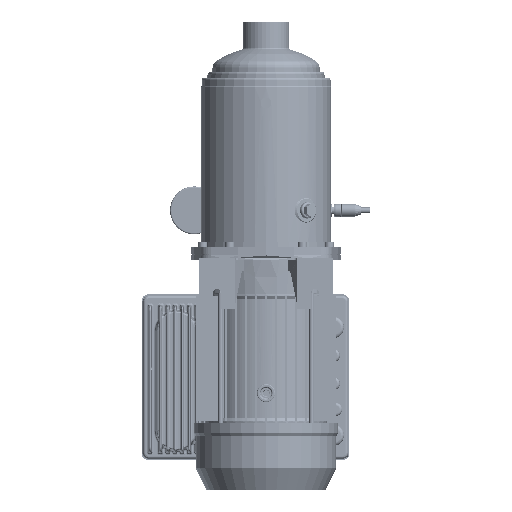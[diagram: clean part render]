
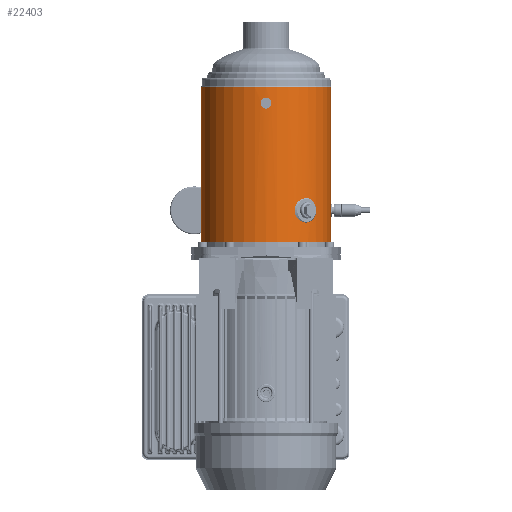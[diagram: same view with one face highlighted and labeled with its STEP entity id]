
A CAD part, front view. The second image highlights one B-rep face of the part: STEP entity #22403.
In plain terms, the highlighted cylindrical face has radius 72 mm (diameter 144 mm), a partial arc.
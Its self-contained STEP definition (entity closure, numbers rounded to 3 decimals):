
#19460=CARTESIAN_POINT('',(0.,8.4,0.));
#19461=DIRECTION('',(0.,1.,0.));
#19462=DIRECTION('',(0.,0.,-1.));
#19463=AXIS2_PLACEMENT_3D('',#19460,#19461,#19462);
#19538=DIRECTION('',(0.,1.,0.));
#19539=VECTOR('',#19538,170.614);
#19540=CARTESIAN_POINT('',(0.,8.4,-72.));
#19541=LINE('',#19540,#19539);
#19545=DIRECTION('',(0.,-1.,0.));
#19546=VECTOR('',#19545,170.614);
#19547=CARTESIAN_POINT('',(0.,179.014,72.));
#19548=LINE('',#19547,#19546);
#19552=CARTESIAN_POINT('',(-64.772,43.,
31.441));
#19553=CARTESIAN_POINT('',(-64.772,41.708,
31.441));
#19554=CARTESIAN_POINT('',(-64.595,39.185,
31.812));
#19555=CARTESIAN_POINT('',(-63.701,35.395,
33.594));
#19556=CARTESIAN_POINT('',(-62.073,32.171,
36.555));
#19557=CARTESIAN_POINT('',(-59.704,29.999,
40.338));
#19558=CARTESIAN_POINT('',(-56.781,29.25,
44.367));
#19559=CARTESIAN_POINT('',(-53.579,30.001,
48.177));
#19560=CARTESIAN_POINT('',(-50.481,32.175,
51.39));
#19561=CARTESIAN_POINT('',(-48.004,35.4,
53.684));
#19562=CARTESIAN_POINT('',(-46.492,39.193,
54.982));
#19563=CARTESIAN_POINT('',(-46.177,41.711,
55.242));
#19564=CARTESIAN_POINT('',(-46.177,43.,
55.242));
#19569=CARTESIAN_POINT('',(-46.177,43.,
55.242));
#19570=CARTESIAN_POINT('',(-46.177,44.292,
55.242));
#19571=CARTESIAN_POINT('',(-46.493,46.815,
54.98));
#19572=CARTESIAN_POINT('',(-48.007,50.605,
53.681));
#19573=CARTESIAN_POINT('',(-50.485,53.829,
51.386));
#19574=CARTESIAN_POINT('',(-53.583,56.001,
48.172));
#19575=CARTESIAN_POINT('',(-56.786,56.75,
44.361));
#19576=CARTESIAN_POINT('',(-59.708,55.999,
40.332));
#19577=CARTESIAN_POINT('',(-62.076,53.825,36.549));
#19578=CARTESIAN_POINT('',(-63.702,50.6,
33.591));
#19579=CARTESIAN_POINT('',(-64.596,46.807,
31.809));
#19580=CARTESIAN_POINT('',(-64.772,44.289,
31.441));
#19581=CARTESIAN_POINT('',(-64.772,43.,
31.441));
#19586=CARTESIAN_POINT('',(-72.,167.4,0.));
#19587=CARTESIAN_POINT('',(-72.,167.4,-0.812));
#19588=CARTESIAN_POINT('',(-71.974,167.098,
-2.312));
#19589=CARTESIAN_POINT('',(-71.875,165.761,
-4.353));
#19590=CARTESIAN_POINT('',(-71.777,163.758,
-5.685));
#19591=CARTESIAN_POINT('',(-71.736,161.399,
-6.158));
#19592=CARTESIAN_POINT('',(-71.777,159.039,
-5.684));
#19593=CARTESIAN_POINT('',(-71.875,157.037,
-4.352));
#19594=CARTESIAN_POINT('',(-71.974,155.701,
-2.309));
#19595=CARTESIAN_POINT('',(-72.,155.4,-0.811));
#19596=CARTESIAN_POINT('',(-72.,155.4,0.));
#19601=CARTESIAN_POINT('',(-72.,155.4,0.));
#19602=CARTESIAN_POINT('',(-72.,155.4,0.812));
#19603=CARTESIAN_POINT('',(-71.974,155.702,
2.312));
#19604=CARTESIAN_POINT('',(-71.875,157.039,
4.353));
#19605=CARTESIAN_POINT('',(-71.777,159.042,
5.685));
#19606=CARTESIAN_POINT('',(-71.736,161.401,
6.158));
#19607=CARTESIAN_POINT('',(-71.777,163.761,
5.684));
#19608=CARTESIAN_POINT('',(-71.875,165.763,
4.352));
#19609=CARTESIAN_POINT('',(-71.974,167.099,
2.309));
#19610=CARTESIAN_POINT('',(-72.,167.4,0.811));
#19611=CARTESIAN_POINT('',(-72.,167.4,0.));
#19624=CARTESIAN_POINT('',(0.,179.014,0.));
#19625=DIRECTION('',(0.,-1.,0.));
#19626=DIRECTION('',(0.,0.,1.));
#19627=AXIS2_PLACEMENT_3D('',#19624,#19625,#19626);
#21646=CARTESIAN_POINT('',(0.,8.4,72.));
#21647=CARTESIAN_POINT('',(0.,8.4,-72.));
#21648=VERTEX_POINT('',#21646);
#21649=VERTEX_POINT('',#21647);
#21650=CARTESIAN_POINT('',(0.,179.014,-72.));
#21651=VERTEX_POINT('',#21650);
#21652=CARTESIAN_POINT('',(0.,179.014,72.));
#21653=VERTEX_POINT('',#21652);
#21658=VERTEX_POINT('',#19552);
#21659=VERTEX_POINT('',#19564);
#21660=VERTEX_POINT('',#19586);
#21661=VERTEX_POINT('',#19596);
#22379=CARTESIAN_POINT('',(0.,182.427,0.));
#22380=DIRECTION('',(0.,-1.,0.));
#22381=DIRECTION('',(0.,0.,1.));
#22382=AXIS2_PLACEMENT_3D('',#22379,#22380,#22381);
#22383=CYLINDRICAL_SURFACE('',#22382,72.);
#22384=ORIENTED_EDGE('',*,*,#22357,.T.);
#22386=ORIENTED_EDGE('',*,*,#22385,.F.);
#22387=ORIENTED_EDGE('',*,*,#22360,.T.);
#22388=ORIENTED_EDGE('',*,*,#22347,.F.);
#22389=EDGE_LOOP('',(#22384,#22386,#22387,#22388));
#22390=FACE_OUTER_BOUND('',#22389,.F.);
#22392=ORIENTED_EDGE('',*,*,#22391,.T.);
#22394=ORIENTED_EDGE('',*,*,#22393,.T.);
#22395=EDGE_LOOP('',(#22392,#22394));
#22396=FACE_BOUND('',#22395,.F.);
#22398=ORIENTED_EDGE('',*,*,#22397,.T.);
#22400=ORIENTED_EDGE('',*,*,#22399,.T.);
#22401=EDGE_LOOP('',(#22398,#22400));
#22402=FACE_BOUND('',#22401,.F.);
#19464=CIRCLE('',#19463,72.);
#19565=B_SPLINE_CURVE_WITH_KNOTS('',3,(#19552,#19553,#19554,#19555,#19556,
#19557,#19558,#19559,#19560,#19561,#19562,#19563,#19564),.UNSPECIFIED.,.F.,.F.,(
4,1,1,1,1,1,1,1,1,1,4),(0.,0.1,0.2,0.3,0.4,0.5,0.6,0.7,0.8,
0.9,1.),.UNSPECIFIED.);
#19582=B_SPLINE_CURVE_WITH_KNOTS('',3,(#19569,#19570,#19571,#19572,#19573,
#19574,#19575,#19576,#19577,#19578,#19579,#19580,#19581),.UNSPECIFIED.,.F.,.F.,(
4,1,1,1,1,1,1,1,1,1,4),(0.,0.1,0.2,0.3,0.4,0.5,0.6,0.7,0.8,
0.9,1.),.UNSPECIFIED.);
#19597=B_SPLINE_CURVE_WITH_KNOTS('',3,(#19586,#19587,#19588,#19589,#19590,
#19591,#19592,#19593,#19594,#19595,#19596),.UNSPECIFIED.,.F.,.F.,(4,1,1,1,1,1,1,
1,4),(0.,0.125,0.25,0.375,0.5,0.625,0.75,0.875,1.),
.UNSPECIFIED.);
#19612=B_SPLINE_CURVE_WITH_KNOTS('',3,(#19601,#19602,#19603,#19604,#19605,
#19606,#19607,#19608,#19609,#19610,#19611),.UNSPECIFIED.,.F.,.F.,(4,1,1,1,1,1,1,
1,4),(0.,0.125,0.25,0.375,0.5,0.625,0.75,0.875,1.),
.UNSPECIFIED.);
#19628=CIRCLE('',#19627,72.);
#22347=EDGE_CURVE('',#21649,#21648,#19464,.T.);
#22357=EDGE_CURVE('',#21649,#21651,#19541,.T.);
#22360=EDGE_CURVE('',#21653,#21648,#19548,.T.);
#22385=EDGE_CURVE('',#21653,#21651,#19628,.T.);
#22391=EDGE_CURVE('',#21658,#21659,#19565,.T.);
#22393=EDGE_CURVE('',#21659,#21658,#19582,.T.);
#22397=EDGE_CURVE('',#21660,#21661,#19597,.T.);
#22399=EDGE_CURVE('',#21661,#21660,#19612,.T.);
#22403=ADVANCED_FACE('',(#22390,#22396,#22402),#22383,.T.);
